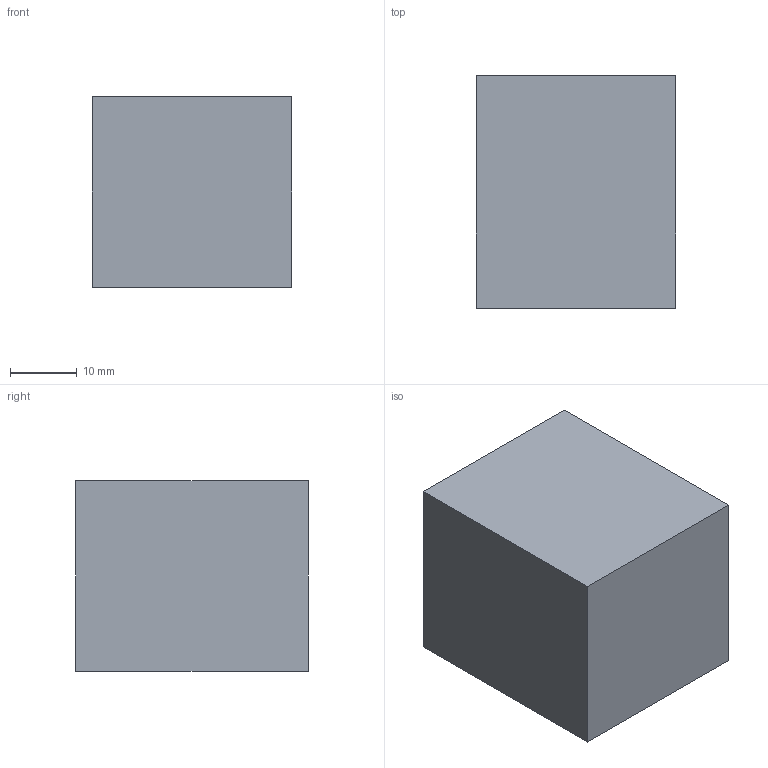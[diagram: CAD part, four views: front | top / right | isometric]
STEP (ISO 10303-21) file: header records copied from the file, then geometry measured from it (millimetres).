
FILE_DESCRIPTION(('Open CASCADE Model'),'2;1');
FILE_NAME('Open CASCADE Shape Model','2026-10-10T15:34:58',('Author'),( 'Open CASCADE'),'Open CASCADE STEP processor 7.9','Open CASCADE 7.9' ,'Unknown');
FILE_SCHEMA(('AUTOMOTIVE_DESIGN { 1 0 10303 214 1 1 1 1 }'));
Length unit declared in the file: millimetre
Products named in the file (1): Open CASCADE STEP translator 7.9 34
Bounding box: 30 x 35 x 28.6 mm (x, y, z)
Volume: 30030 mm3; surface area: 5818 mm2
Topology: 1 solids, 1 shells, 6 faces, 12 edges, 8 vertices
Faces by surface type: plane 6
Entity records: 322 total; most frequent: CARTESIAN_POINT 51, DIRECTION 50, LINE 36, VECTOR 36, ORIENTED_EDGE 24, PCURVE 24, DEFINITIONAL_REPRESENTATION 24, EDGE_CURVE 12
